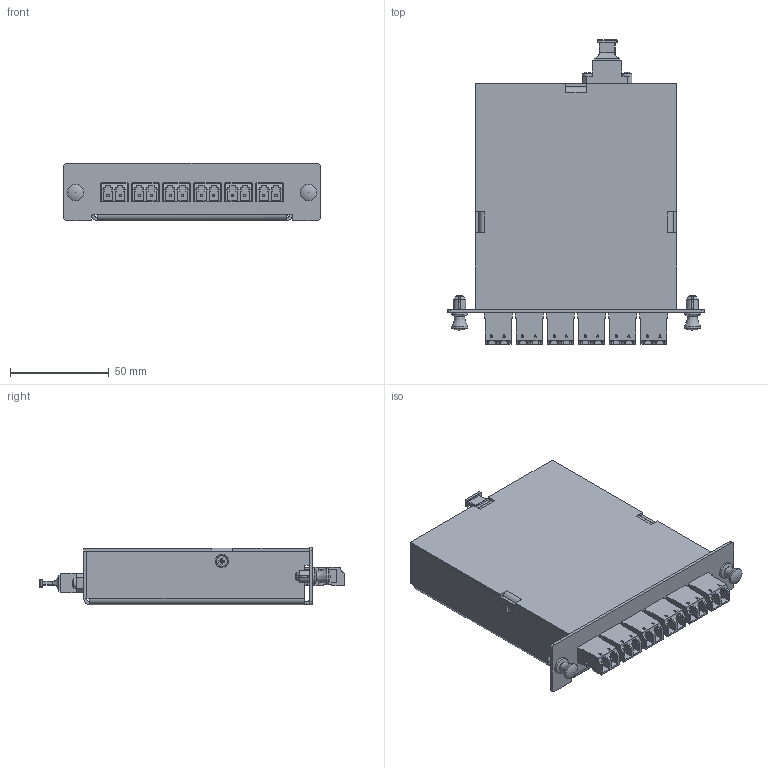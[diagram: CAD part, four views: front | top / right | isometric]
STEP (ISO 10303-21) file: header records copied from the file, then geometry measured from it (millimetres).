
FILE_DESCRIPTION(/* description */ ('STEP AP242','CAx-IF Rec.Pracs.---Representation and Presentation of Product Manufacturing Information (PMI)---4.0---2014-10-13','CAx-IF Rec.Pracs.---3D Tessellated Geometry---0.4---2014-09-14','2;1'),/* implementation_level */ '2;1');
FILE_NAME(/* name */ '650c9f0f3cf03a3ab622ef4c',/* time_stamp */ '2023-09-21T19:52:48Z',/* author */ (''),/* organization */ (''),/* preprocessor_version */ 'ST-DEVELOPER v19.4',/* originating_system */ ' ',/* authorisation */ ' ');
FILE_SCHEMA (('AP242_MANAGED_MODEL_BASED_3D_ENGINEERING_MIM_LF { 1 0 10303 442 1 1 4 }'));
Length unit declared in the file: metre
Products named in the file (15): MTPC-1M-12XXLC-1; PEM SMPS-M3; User Library-Fiber Optic LC Adapters; PH Countersunk flat head screw M3x0.5 x 5; Plunger - Mini Snap Latch; PH Pan head screw M2.5x0.45 x 6; Grommet - Mini Snap Latch; Housing; Lid; FOA-990A_3D <1>; FOA-991A-MA1; DSTCP-MTP-FOA_update 2011; FOA-992B_WITH CHAMFERS
Assembly tree (25 placements, depth 3):
  MTPC-1M-12XXLC-1
    PEM SMPS-M3  x3
    User Library-Fiber Optic LC Adapters  x6
    PH Countersunk flat head screw M3x0.5 x 5  x3
    Plunger - Mini Snap Latch
    PH Pan head screw M2.5x0.45 x 6  x2
    Grommet - Mini Snap Latch
    Housing
    Grommet - Mini Snap Latch
    Lid
    FOA-990A_3D <1>
      FOA-991A-MA1  x2
      DSTCP-MTP-FOA_update 2011
      FOA-992B_WITH CHAMFERS
    Plunger - Mini Snap Latch
Bounding box: 130 x 154.44 x 29 mm (x, y, z)
Volume: 65326.3 mm3; surface area: 96542.5 mm2
Topology: 24 solids, 25 shells, 2411 faces, 6597 edges, 4309 vertices
Faces by surface type: plane 1977, cylinder 197, bspline 169, cone 53, torus 9, sphere 6
Full cylindrical faces by diameter (mm): 1.27 x12, 1.75 x2, 2.037 x2, 2.459 x3, 2.5 x2, 2.896 x2, 3 x3, 3.81 x6, 3.937 x2, 4.22 x3, 4.75 x3, 5 x2, 5.5 x3, 5.588 x2, 5.6 x3, 6 x2, 8.382 x4
Entity records: 28068 total; most frequent: CARTESIAN_POINT 5922, ORIENTED_EDGE 4472, DIRECTION 4201, EDGE_CURVE 2236, LINE 1739, VECTOR 1739, VERTEX_POINT 1482, AXIS2_PLACEMENT_3D 1231
